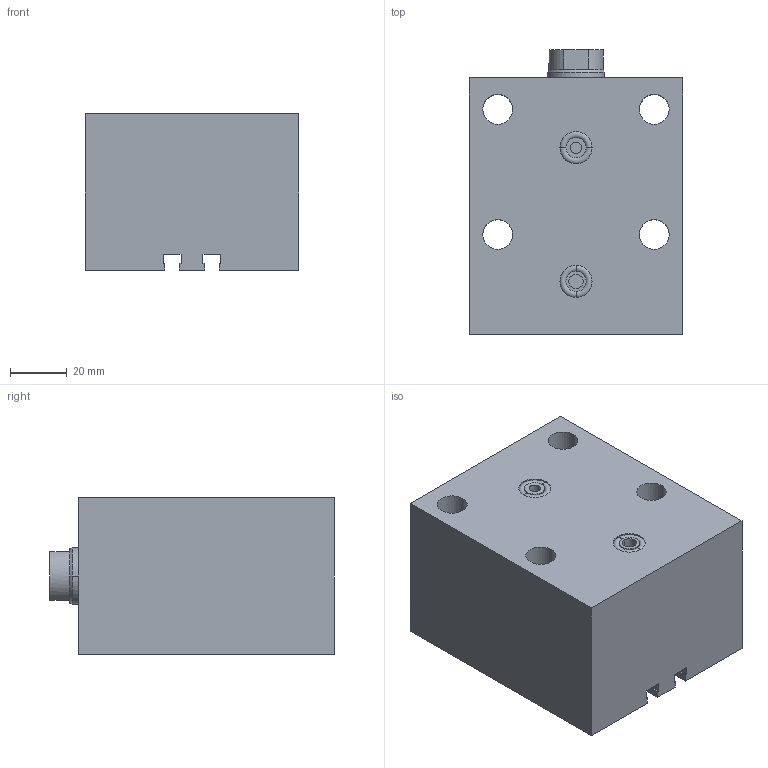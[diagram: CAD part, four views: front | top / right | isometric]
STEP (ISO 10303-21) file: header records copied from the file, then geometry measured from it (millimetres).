
FILE_DESCRIPTION (( 'STEP AP203' ), '1' );
FILE_NAME ('GERMA_Blockzylinder_703-032-025.STEP', '2016-07-23T08:43:48', ( '' ), ( '' ), 'SwSTEP 2.0', 'SolidWorks 2015', '' );
FILE_SCHEMA (( 'CONFIG_CONTROL_DESIGN' ));
Length unit declared in the file: millimetre
Products named in the file (3): GH-700-032_GH-703-032-025; GERMA_Blockzylinder_703-032-025; Kolben_MT 70x-032_Kolben_MT DU.32-Hub25-IG
Assembly tree (2 placements, depth 2):
  GERMA_Blockzylinder_703-032-025
    GH-700-032_GH-703-032-025
    Kolben_MT 70x-032_Kolben_MT DU.32-Hub25-IG
Bounding box: 75 x 100 x 55 mm (x, y, z)
Volume: 334723.3 mm3; surface area: 56275 mm2
Topology: 2 solids, 2 shells, 100 faces, 230 edges, 142 vertices
Faces by surface type: cylinder 43, plane 39, cone 14, torus 4
Entity records: 3114 total; most frequent: DIRECTION 535, CARTESIAN_POINT 471, ORIENTED_EDGE 448, EDGE_CURVE 224, AXIS2_PLACEMENT_3D 206, VERTEX_POINT 142, VECTOR 123, LINE 123
